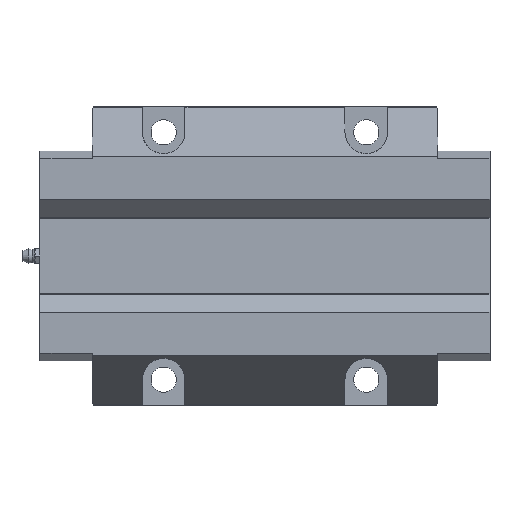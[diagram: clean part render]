
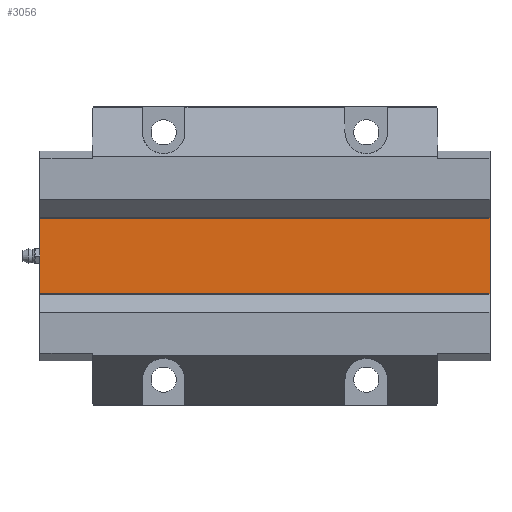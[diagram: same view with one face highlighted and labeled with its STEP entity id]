
A CAD part, front view. The second image highlights one B-rep face of the part: STEP entity #3056.
In plain terms, the highlighted planar face has unit normal (0, -1, 0).
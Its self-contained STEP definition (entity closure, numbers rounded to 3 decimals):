
#809=ORIENTED_EDGE('',*,*,#1214,.F.);
#810=ORIENTED_EDGE('',*,*,#1407,.F.);
#811=ORIENTED_EDGE('',*,*,#1157,.T.);
#812=ORIENTED_EDGE('',*,*,#1408,.T.);
#1157=EDGE_CURVE('',#1573,#1572,#1859,.T.);
#1214=EDGE_CURVE('',#1626,#1627,#1895,.T.);
#1407=EDGE_CURVE('',#1573,#1626,#2057,.T.);
#1408=EDGE_CURVE('',#1572,#1627,#2058,.T.);
#1572=VERTEX_POINT('',#4517);
#1573=VERTEX_POINT('',#4519);
#1626=VERTEX_POINT('',#4629);
#1627=VERTEX_POINT('',#4631);
#1859=LINE('',#4518,#2129);
#1895=LINE('',#4630,#2165);
#2057=LINE('',#5009,#2327);
#2058=LINE('',#5011,#2328);
#2129=VECTOR('',#3594,1000.);
#2165=VECTOR('',#3674,1000.);
#2327=VECTOR('',#4050,1000.);
#2328=VECTOR('',#4053,1000.);
#2461=EDGE_LOOP('',(#809,#810,#811,#812));
#2713=FACE_BOUND('',#2461,.T.);
#2925=PLANE('',#3336);
#3056=ADVANCED_FACE('',(#2713),#2925,.T.);
#3336=AXIS2_PLACEMENT_3D('',#5010,#4051,#4052);
#3594=DIRECTION('',(0.,0.,1.));
#3674=DIRECTION('',(0.,0.,1.));
#4050=DIRECTION('',(-1.,0.,0.));
#4051=DIRECTION('',(0.,-1.,0.));
#4052=DIRECTION('',(0.,0.,-1.));
#4053=DIRECTION('',(-1.,0.,0.));
#4517=CARTESIAN_POINT('',(105.5,35.,25.47));
#4518=CARTESIAN_POINT('',(105.5,35.,-25.47));
#4519=CARTESIAN_POINT('',(105.5,35.,-25.47));
#4629=CARTESIAN_POINT('',(-105.5,35.,-25.47));
#4630=CARTESIAN_POINT('',(-105.5,35.,-25.47));
#4631=CARTESIAN_POINT('',(-105.5,35.,25.47));
#5009=CARTESIAN_POINT('',(105.5,35.,-25.47));
#5010=CARTESIAN_POINT('',(105.5,35.,-25.47));
#5011=CARTESIAN_POINT('',(105.5,35.,25.47));
